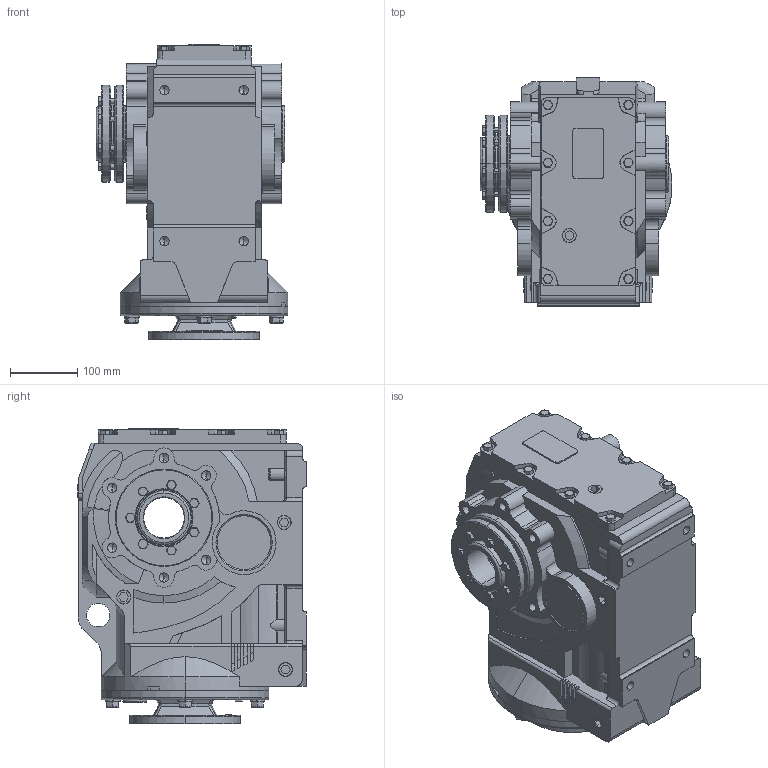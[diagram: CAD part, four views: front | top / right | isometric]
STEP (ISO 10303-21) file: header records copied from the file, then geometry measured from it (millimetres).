
FILE_DESCRIPTION (( 'STEP AP203' ), '1' );
FILE_NAME ('KAN87-143TC-B-POWER LOCK.STEP', '2020-11-25T03:12:02', ( 'Microsoft' ), ( 'Microsoft' ), 'SwSTEP 2.0', 'SolidWorks 2012', '' );
FILE_SCHEMA (( 'CONFIG_CONTROL_DESIGN' ));
Length unit declared in the file: millimetre
Products named in the file (1): KAN87-143TC-B-POWER LOCK
Bounding box: 286 x 340.5 x 439.5 mm (x, y, z)
Volume: 22593211.5 mm3; surface area: 932244.8 mm2
Topology: 2 solids, 27 shells, 1709 faces, 4334 edges, 2751 vertices
Faces by surface type: plane 709, cylinder 519, cone 320, bspline 113, torus 48
Entity records: 61103 total; most frequent: CARTESIAN_POINT 20369, ORIENTED_EDGE 8536, DIRECTION 8325, EDGE_CURVE 4268, AXIS2_PLACEMENT_3D 3064, VERTEX_POINT 2751, LINE 2197, VECTOR 2197
